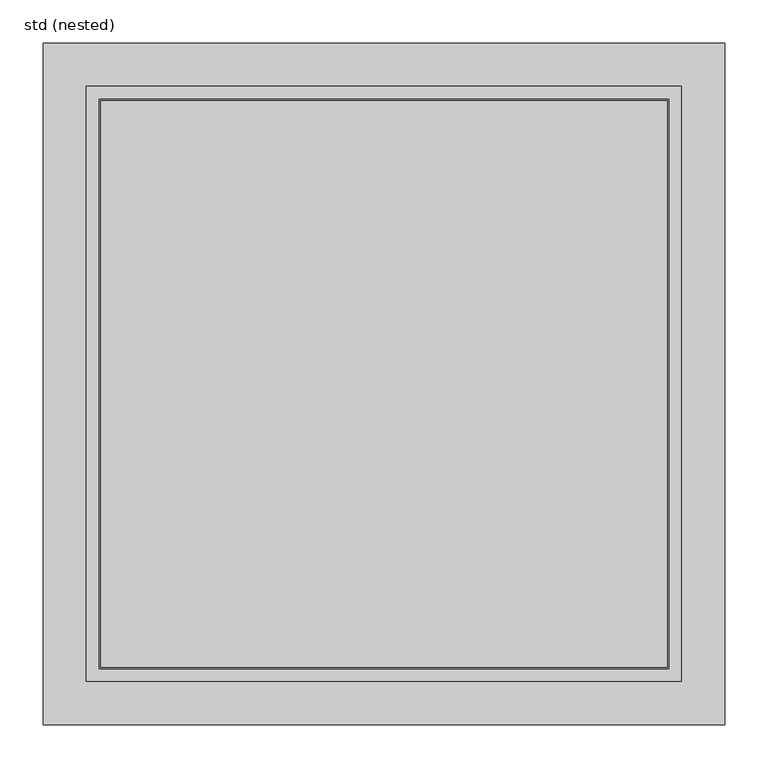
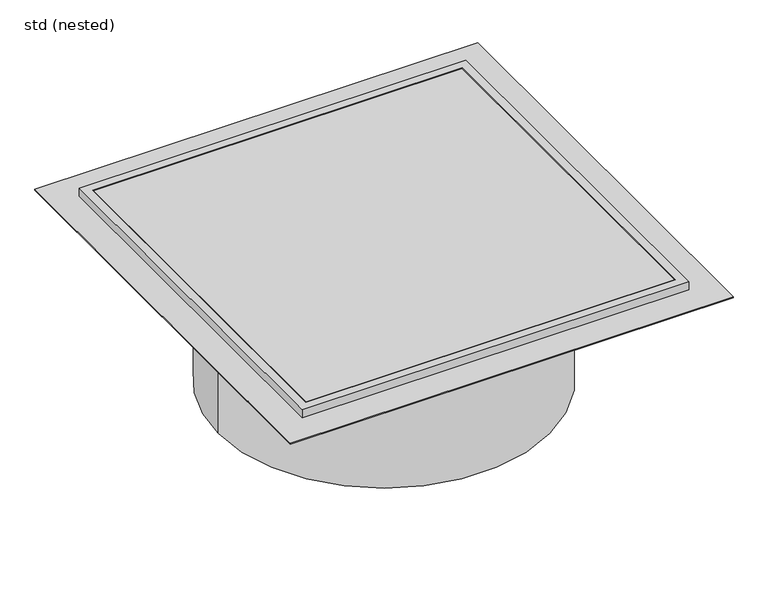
"""IFC4 building model written with IfcOpenShell, lengths in millimetres: unitary equipment geometry, ZZZ_do not use_ME_WPB_top section muliflex_ACO -SH : std (nested)."""

from ifc_helpers import new_model, si_unit, frame, origin, place, context, project, spatial, polyline, circle_curve, outline, extrude, source, transform, mapped, element, save
from ifc_brep_helpers import plane_surface, cylinder_surface, revolved_surface, advanced_brep


def std_nested_c9297620(model_context):
    return source(origin(), model_context, "Body", "SolidModel", [
        extrude(outline(polyline([(327.5, -327.5), (-327.5, -327.5), (-327.5, 327.5), (327.5, 327.5), (327.5, -327.5)])), frame((0.0, 0.0, -35.5), z_axis=(0.0, 0.0, 1.0), x_axis=(1.0, 0.0, 0.0)), (0.0, 0.0, 1.0), 35.5),
        advanced_brep(
        [(394.0, -394.0, -15.0), (394.0, 394.0, -15.0), (-394.0, 394.0, -15.0), (-394.0, -394.0, -15.0), (344.0, 344.0, -15.0), (344.0, -344.0, -15.0), (-344.0, -344.0, -15.0), (-344.0, 344.0, -15.0), (394.0, -394.0, -16.5), (-394.0, -394.0, -16.5), (-394.0, 394.0, -16.5), (394.0, 394.0, -16.5), (330.5, -330.5, -16.5), (330.5, 330.5, -16.5), (-330.5, 330.5, -16.5), (-330.5, -330.5, -16.5), (-329.0, 329.0, 0.0), (-329.0, -329.0, 0.0), (-329.0, -329.0, -35.5), (-329.0, 329.0, -35.5), (329.0, 329.0, 0.0), (329.0, 329.0, -35.5), (329.0, -329.0, 0.0), (329.0, -329.0, -35.5), (344.0, -344.0, 0.0), (344.0, 344.0, 0.0), (-344.0, 344.0, 0.0), (-344.0, -344.0, 0.0), (295.0, 0.0, -270.0), (-295.0, 0.0, -270.0), (293.5, 0.0, -270.0), (-293.5, 0.0, -270.0), (295.0, 0.0, -37.0), (-295.0, 0.0, -37.0), (293.5, 0.0, -37.0), (-293.5, 0.0, -37.0), (330.5, -330.5, -37.0), (-330.5, -330.5, -37.0), (-330.5, 330.5, -37.0), (330.5, 330.5, -37.0), (293.5, 0.0, -35.5), (-293.5, 0.0, -35.5)],
        [
            (0, 1),
            (1, 2),
            (2, 3),
            (3, 0),
            (4, 5),
            (5, 6),
            (6, 7),
            (7, 4),
            (8, 9),
            (9, 10),
            (10, 11),
            (11, 8),
            (12, 13),
            (13, 14),
            (14, 15),
            (15, 12),
            (0, 8),
            (11, 1),
            (10, 2),
            (9, 3),
            (16, 17),
            (17, 18),
            (18, 19),
            (19, 16),
            (20, 16),
            (19, 21),
            (21, 20),
            (22, 20),
            (21, 23),
            (23, 22),
            (17, 22),
            (23, 18),
            (24, 25),
            (25, 26),
            (26, 27),
            (27, 24),
            (24, 5),
            (4, 25),
            (7, 26),
            (6, 27),
            (28, 29, circle_curve(frame((0.0, 0.0, -270.0), z_axis=(0.0, 0.0, -1.0), x_axis=(-1.0, 0.0, 0.0)), 295.0)),
            (29, 28, circle_curve(frame((0.0, 0.0, -270.0), z_axis=(0.0, 0.0, -1.0), x_axis=(-1.0, 0.0, 0.0)), 295.0)),
            (30, 31, circle_curve(frame((0.0, 0.0, -270.0), z_axis=(0.0, 0.0, 1.0), x_axis=(-1.0, 0.0, 0.0)), 293.5)),
            (31, 30, circle_curve(frame((0.0, 0.0, -270.0), z_axis=(0.0, 0.0, 1.0), x_axis=(-1.0, 0.0, 0.0)), 293.5)),
            (28, 32),
            (32, 33, circle_curve(frame((0.0, 0.0, -37.0), z_axis=(0.0, 0.0, -1.0), x_axis=(-1.0, 0.0, 0.0)), 295.0)),
            (33, 29),
            (33, 32, circle_curve(frame((0.0, 0.0, -37.0), z_axis=(0.0, 0.0, -1.0), x_axis=(-1.0, 0.0, 0.0)), 295.0)),
            (30, 34),
            (34, 35, circle_curve(frame((0.0, 0.0, -37.0), z_axis=(0.0, 0.0, 1.0), x_axis=(-1.0, 0.0, 0.0)), 293.5)),
            (35, 31),
            (35, 34, circle_curve(frame((0.0, 0.0, -37.0), z_axis=(0.0, 0.0, 1.0), x_axis=(-1.0, 0.0, 0.0)), 293.5)),
            (36, 37),
            (37, 38),
            (38, 39),
            (39, 36),
            (40, 41, circle_curve(frame((0.0, 0.0, -35.5), z_axis=(0.0, 0.0, -1.0), x_axis=(-1.0, 0.0, 0.0)), 293.5)),
            (41, 40, circle_curve(frame((0.0, 0.0, -35.5), z_axis=(0.0, 0.0, -1.0), x_axis=(-1.0, 0.0, 0.0)), 293.5)),
            (41, 35),
            (34, 40),
            (39, 13),
            (12, 36),
            (38, 14),
            (37, 15),
        ],
        [
            plane_surface(frame((0.0, 0.0, -15.0), z_axis=(0.0, 0.0, 1.0), x_axis=(0.0, -1.0, 0.0))),
            plane_surface(frame((0.0, 0.0, -16.5), z_axis=(0.0, 0.0, -1.0), x_axis=(0.0, -1.0, 0.0))),
            plane_surface(frame((394.0, -394.0, -15.0), z_axis=(1.0, 0.0, 0.0), x_axis=(0.0, 0.0, -1.0))),
            plane_surface(frame((394.0, 394.0, -15.0), z_axis=(0.0, 1.0, 0.0), x_axis=(0.0, 0.0, -1.0))),
            plane_surface(frame((-394.0, 394.0, -15.0), z_axis=(-1.0, 0.0, 0.0), x_axis=(0.0, 0.0, -1.0))),
            plane_surface(frame((-394.0, -394.0, -15.0), z_axis=(0.0, -1.0, 0.0), x_axis=(0.0, 0.0, -1.0))),
            plane_surface(frame((-329.0, -329.0, -15.0), z_axis=(1.0, 0.0, 0.0), x_axis=(0.0, 0.0, -1.0))),
            plane_surface(frame((-329.0, 329.0, -15.0), z_axis=(0.0, -1.0, 0.0), x_axis=(0.0, 0.0, -1.0))),
            plane_surface(frame((329.0, 329.0, -15.0), z_axis=(-1.0, 0.0, 0.0), x_axis=(0.0, 0.0, -1.0))),
            plane_surface(frame((329.0, -329.0, -15.0), z_axis=(0.0, 1.0, 0.0), x_axis=(0.0, 0.0, -1.0))),
            plane_surface(frame((0.0, 0.0, 0.0), z_axis=(0.0, 0.0, 1.0), x_axis=(0.0, -1.0, 0.0))),
            plane_surface(frame((344.0, -344.0, 0.0), z_axis=(1.0, 0.0, 0.0), x_axis=(0.0, 0.0, -1.0))),
            plane_surface(frame((344.0, 344.0, 0.0), z_axis=(0.0, 1.0, 0.0), x_axis=(0.0, 0.0, -1.0))),
            plane_surface(frame((-344.0, 344.0, 0.0), z_axis=(-1.0, 0.0, 0.0), x_axis=(0.0, 0.0, -1.0))),
            plane_surface(frame((-344.0, -344.0, 0.0), z_axis=(0.0, -1.0, 0.0), x_axis=(0.0, 0.0, -1.0))),
            plane_surface(frame((0.0, 0.0, -270.0), z_axis=(0.0, 0.0, -1.0), x_axis=(0.0, -1.0, 0.0))),
            cylinder_surface(frame((0.0, 0.0, -270.0), z_axis=(0.0, 0.0, -1.0), x_axis=(-1.0, 0.0, 0.0)), 295.0),
            revolved_surface(polyline([(-293.5, 0.0, -37.0), (-293.5, 0.0, -270.0)]), (0.0, 0.0, -270.0), (0.0, 0.0, 1.0)),
            plane_surface(frame((0.0, 0.0, -37.0), z_axis=(0.0, 0.0, -1.0), x_axis=(0.0, -1.0, 0.0))),
            plane_surface(frame((0.0, 0.0, -35.5), z_axis=(0.0, 0.0, 1.0), x_axis=(0.0, -1.0, 0.0))),
            revolved_surface(polyline([(-293.5, 0.0, -35.5), (-293.5, 0.0, -37.0)]), (0.0, 0.0, -37.0), (0.0, 0.0, 1.0)),
            plane_surface(frame((330.5, -330.5, -16.5), z_axis=(1.0, 0.0, 0.0), x_axis=(0.0, 0.0, -1.0))),
            plane_surface(frame((330.5, 330.5, -16.5), z_axis=(0.0, 1.0, 0.0), x_axis=(0.0, 0.0, -1.0))),
            plane_surface(frame((-330.5, 330.5, -16.5), z_axis=(-1.0, 0.0, 0.0), x_axis=(0.0, 0.0, -1.0))),
            plane_surface(frame((-330.5, -330.5, -16.5), z_axis=(0.0, -1.0, 0.0), x_axis=(0.0, 0.0, -1.0))),
        ],
        [
            (0, [[1, 2, 3, 4], [5, 6, 7, 8]]),
            (1, [[9, 10, 11, 12], [13, 14, 15, 16]]),
            (2, [[-1, 17, -12, 18]]),
            (3, [[-2, -18, -11, 19]]),
            (4, [[-3, -19, -10, 20]]),
            (5, [[-4, -20, -9, -17]]),
            (6, [[21, 22, 23, 24]]),
            (7, [[25, -24, 26, 27]]),
            (8, [[28, -27, 29, 30]]),
            (9, [[-22, 31, -30, 32]]),
            (10, [[33, 34, 35, 36], [-21, -25, -28, -31]]),
            (11, [[-33, 37, -5, 38]]),
            (12, [[-34, -38, -8, 39]]),
            (13, [[-35, -39, -7, 40]]),
            (14, [[-36, -40, -6, -37]]),
            (15, [[41, 42], [43, 44]]),
            (16, [[-41, 45, 46, 47]]),
            (16, [[-42, -47, 48, -45]]),
            (17, [[-43, 49, 50, 51]]),
            (17, [[-44, -51, 52, -49]]),
            (18, [[53, 54, 55, 56], [-46, -48]]),
            (19, [[-23, -32, -29, -26], [57, 58]]),
            (20, [[-58, 59, -50, 60]]),
            (20, [[-57, -60, -52, -59]]),
            (21, [[-56, 61, -13, 62]]),
            (22, [[-55, 63, -14, -61]]),
            (23, [[-54, 64, -15, -63]]),
            (24, [[-53, -62, -16, -64]]),
        ],
    ),
    ])


if __name__ == "__main__":
    model = new_model("IFC4")
    model_context = context("Model", 3, world=origin())
    ifc_project = project(units=[si_unit("LENGTHUNIT", "METRE", prefix="MILLI")], contexts=[model_context])
    site = spatial("IfcSite", under=ifc_project)
    building = spatial("IfcBuilding", under=site)
    placement = place(None, origin())
    std_nested_shape = std_nested_c9297620(model_context)
    element("IfcUnitaryEquipment", 1, ObjectType="ZZZ_do not use_ME_WPB_top section muliflex_ACO -SH : std (nested)", at=placement, inside=building, context=model_context, shape_type="MappedRepresentation", body=[
        mapped(std_nested_shape, transform((0.0, 0.0, 0.0), x_axis=(1.0, 0.0, 0.0), y_axis=(0.0, 1.0, 0.0), z_axis=(0.0, 0.0, 1.0))),
    ])
    save(model, "model.ifc")
